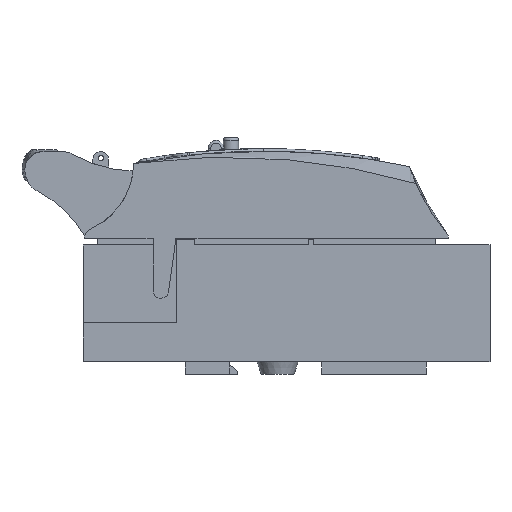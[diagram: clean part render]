
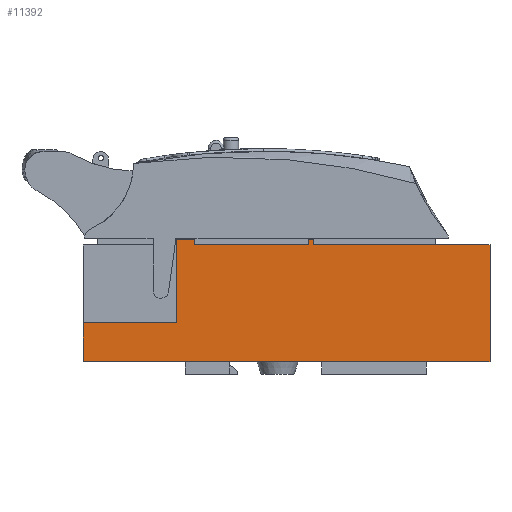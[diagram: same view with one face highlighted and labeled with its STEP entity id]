
A CAD part, front view. The second image highlights one B-rep face of the part: STEP entity #11392.
In plain terms, the highlighted planar face has unit normal (0, -1, 0).
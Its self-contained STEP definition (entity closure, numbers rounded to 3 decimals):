
#11392=ADVANCED_FACE('',(#13667),#12658,.F.);
#12658=PLANE('',#33236);
#13667=FACE_OUTER_BOUND('',#14918,.T.);
#14918=EDGE_LOOP('',(#16823,#16824,#16825,#16826,#16827,#16828,#16829,#16830,
#16831,#16832,#16833,#16834));
#16823=ORIENTED_EDGE('',*,*,#26007,.F.);
#16824=ORIENTED_EDGE('',*,*,#26229,.T.);
#16825=ORIENTED_EDGE('',*,*,#26231,.T.);
#16826=ORIENTED_EDGE('',*,*,#26207,.F.);
#16827=ORIENTED_EDGE('',*,*,#26064,.F.);
#16828=ORIENTED_EDGE('',*,*,#26091,.F.);
#16829=ORIENTED_EDGE('',*,*,#26096,.F.);
#16830=ORIENTED_EDGE('',*,*,#26093,.T.);
#16831=ORIENTED_EDGE('',*,*,#26042,.F.);
#16832=ORIENTED_EDGE('',*,*,#26232,.F.);
#16833=ORIENTED_EDGE('',*,*,#26086,.F.);
#16834=ORIENTED_EDGE('',*,*,#26075,.F.);
#23566=VERTEX_POINT('',#41769);
#23567=VERTEX_POINT('',#41771);
#23596=VERTEX_POINT('',#41834);
#23600=VERTEX_POINT('',#41842);
#23622=VERTEX_POINT('',#41889);
#23623=VERTEX_POINT('',#41891);
#23632=VERTEX_POINT('',#41912);
#23639=VERTEX_POINT('',#41933);
#23642=VERTEX_POINT('',#41941);
#23644=VERTEX_POINT('',#41947);
#23729=VERTEX_POINT('',#42166);
#23746=VERTEX_POINT('',#42213);
#26007=EDGE_CURVE('',#23566,#23567,#29555,.T.);
#26042=EDGE_CURVE('',#23600,#23596,#29584,.T.);
#26064=EDGE_CURVE('',#23622,#23623,#29606,.T.);
#26075=EDGE_CURVE('',#23567,#23632,#29617,.T.);
#26086=EDGE_CURVE('',#23632,#23639,#29628,.T.);
#26091=EDGE_CURVE('',#23642,#23622,#29633,.T.);
#26093=EDGE_CURVE('',#23644,#23596,#29635,.T.);
#26096=EDGE_CURVE('',#23644,#23642,#29638,.T.);
#26207=EDGE_CURVE('',#23623,#23729,#29747,.T.);
#26229=EDGE_CURVE('',#23566,#23746,#29769,.T.);
#26231=EDGE_CURVE('',#23746,#23729,#29771,.T.);
#26232=EDGE_CURVE('',#23639,#23600,#29772,.T.);
#29555=LINE('',#41770,#31400);
#29584=LINE('',#41843,#31429);
#29606=LINE('',#41890,#31451);
#29617=LINE('',#41911,#31462);
#29628=LINE('',#41932,#31473);
#29633=LINE('',#41942,#31478);
#29635=LINE('',#41946,#31480);
#29638=LINE('',#41951,#31483);
#29747=LINE('',#42171,#31592);
#29769=LINE('',#42214,#31614);
#29771=LINE('',#42217,#31616);
#29772=LINE('',#42218,#31617);
#31400=VECTOR('',#35534,1.);
#31429=VECTOR('',#35583,1.);
#31451=VECTOR('',#35611,1.);
#31462=VECTOR('',#35624,1.);
#31473=VECTOR('',#35641,1.);
#31478=VECTOR('',#35648,1.);
#31480=VECTOR('',#35652,1.);
#31483=VECTOR('',#35657,1.);
#31592=VECTOR('',#35814,1.);
#31614=VECTOR('',#35848,1.);
#31616=VECTOR('',#35852,1.);
#31617=VECTOR('',#35853,1.);
#33236=AXIS2_PLACEMENT_3D('',#42219,#35854,#35855);
#35534=DIRECTION('',(1.,0.,0.));
#35583=DIRECTION('',(1.,0.,0.));
#35611=DIRECTION('',(1.,0.,0.));
#35624=DIRECTION('',(0.,0.,1.));
#35641=DIRECTION('',(1.,0.,0.));
#35648=DIRECTION('',(0.,0.,-1.));
#35652=DIRECTION('',(0.,0.,-1.));
#35657=DIRECTION('',(1.,0.,0.));
#35814=DIRECTION('',(0.,0.,-1.));
#35848=DIRECTION('',(0.,0.,-1.));
#35852=DIRECTION('',(1.,0.,0.));
#35853=DIRECTION('',(0.,0.,-1.));
#35854=DIRECTION('',(0.,1.,0.));
#35855=DIRECTION('',(0.,0.,1.));
#41769=CARTESIAN_POINT('',(-75.,-44.5,-10.979));
#41770=CARTESIAN_POINT('',(-75.,-44.5,-10.979));
#41771=CARTESIAN_POINT('',(-39.,-44.5,-10.979));
#41834=CARTESIAN_POINT('',(12.,-44.5,19.021));
#41842=CARTESIAN_POINT('',(-32.,-44.5,19.021));
#41843=CARTESIAN_POINT('',(-75.,-44.5,19.021));
#41889=CARTESIAN_POINT('',(14.,-44.5,19.021));
#41890=CARTESIAN_POINT('',(-75.,-44.5,19.021));
#41891=CARTESIAN_POINT('',(82.,-44.5,19.021));
#41911=CARTESIAN_POINT('',(-39.,-44.5,19.021));
#41912=CARTESIAN_POINT('',(-39.,-44.5,21.021));
#41932=CARTESIAN_POINT('',(-39.,-44.5,21.021));
#41933=CARTESIAN_POINT('',(-32.,-44.5,21.021));
#41941=CARTESIAN_POINT('',(14.,-44.5,21.021));
#41942=CARTESIAN_POINT('',(14.,-44.5,21.021));
#41946=CARTESIAN_POINT('',(12.,-44.5,21.021));
#41947=CARTESIAN_POINT('',(12.,-44.5,21.021));
#41951=CARTESIAN_POINT('',(14.,-44.5,21.021));
#42166=CARTESIAN_POINT('',(82.,-44.5,-25.979));
#42171=CARTESIAN_POINT('',(82.,-44.5,19.021));
#42213=CARTESIAN_POINT('',(-75.,-44.5,-25.979));
#42214=CARTESIAN_POINT('',(-75.,-44.5,19.021));
#42217=CARTESIAN_POINT('',(-75.,-44.5,-25.979));
#42218=CARTESIAN_POINT('',(-32.,-44.5,21.021));
#42219=CARTESIAN_POINT('',(-75.,-44.5,19.021));
